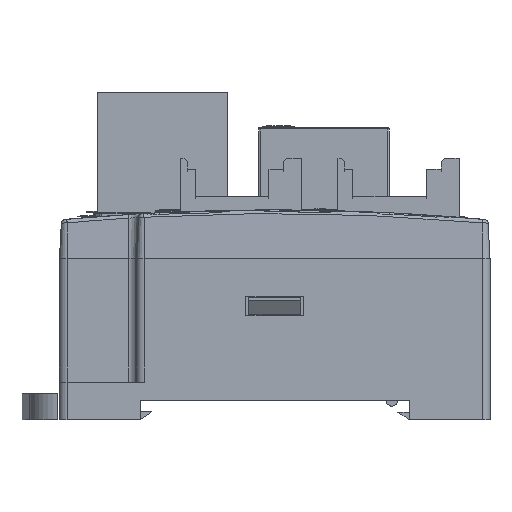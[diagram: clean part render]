
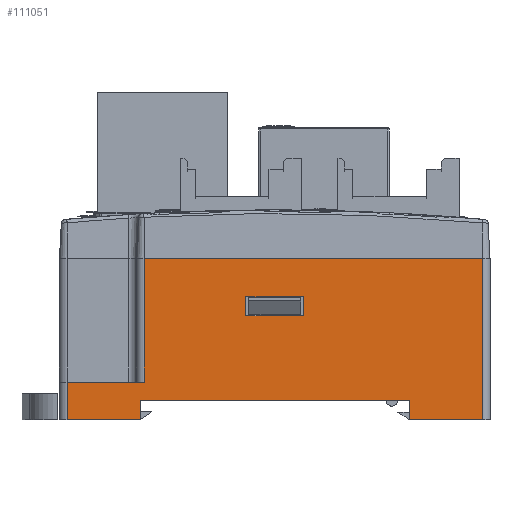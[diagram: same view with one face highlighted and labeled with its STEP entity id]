
A CAD part, front view. The second image highlights one B-rep face of the part: STEP entity #111051.
In plain terms, the highlighted planar face has unit normal (0, -1, 0).
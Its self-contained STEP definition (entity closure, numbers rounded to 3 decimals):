
#5382=DIRECTION('',(0.,0.,-1.));
#5383=VECTOR('',#5382,21.);
#5384=CARTESIAN_POINT('',(27.,-60.,0.));
#5385=LINE('',#5384,#5383);
#5442=DIRECTION('',(0.,0.,-1.));
#5443=VECTOR('',#5442,2.5);
#5444=CARTESIAN_POINT('',(17.5,-60.,-18.5));
#5445=LINE('',#5444,#5443);
#6035=DIRECTION('',(0.,0.,1.));
#6036=VECTOR('',#6035,16.1);
#6037=CARTESIAN_POINT('',(-17.,-60.,-16.1));
#6038=LINE('',#6037,#6036);
#6043=DIRECTION('',(1.,0.,0.));
#6044=VECTOR('',#6043,9.5);
#6045=CARTESIAN_POINT('',(17.5,-60.,-21.));
#6046=LINE('',#6045,#6044);
#6047=DIRECTION('',(1.,0.,0.));
#6048=VECTOR('',#6047,9.5);
#6049=CARTESIAN_POINT('',(-27.,-60.,-21.));
#6050=LINE('',#6049,#6048);
#6051=DIRECTION('',(0.,0.,1.));
#6052=VECTOR('',#6051,2.5);
#6053=CARTESIAN_POINT('',(-3.75,-60.,-7.5));
#6054=LINE('',#6053,#6052);
#6123=DIRECTION('',(1.,0.,0.));
#6124=VECTOR('',#6123,7.5);
#6125=CARTESIAN_POINT('',(-3.75,-60.,-5.));
#6126=LINE('',#6125,#6124);
#6314=DIRECTION('',(0.,0.,-1.));
#6315=VECTOR('',#6314,2.5);
#6316=CARTESIAN_POINT('',(3.75,-60.,-5.));
#6317=LINE('',#6316,#6315);
#6322=DIRECTION('',(-1.,0.,0.));
#6323=VECTOR('',#6322,7.5);
#6324=CARTESIAN_POINT('',(3.75,-60.,-7.5));
#6325=LINE('',#6324,#6323);
#6334=DIRECTION('',(-1.,0.,0.));
#6335=VECTOR('',#6334,35.);
#6336=CARTESIAN_POINT('',(17.5,-60.,-18.5));
#6337=LINE('',#6336,#6335);
#6342=DIRECTION('',(0.,0.,1.));
#6343=VECTOR('',#6342,2.5);
#6344=CARTESIAN_POINT('',(-17.5,-60.,-21.));
#6345=LINE('',#6344,#6343);
#42796=DIRECTION('',(1.,0.,0.));
#42797=VECTOR('',#42796,10.);
#42798=CARTESIAN_POINT('',(-27.,-60.,-16.1));
#42799=LINE('',#42798,#42797);
#42833=DIRECTION('',(0.,0.,1.));
#42834=VECTOR('',#42833,4.9);
#42835=CARTESIAN_POINT('',(-27.,-60.,-21.));
#42836=LINE('',#42835,#42834);
#42926=DIRECTION('',(1.,0.,0.));
#42927=VECTOR('',#42926,44.);
#42928=CARTESIAN_POINT('',(-17.,-60.,0.));
#42929=LINE('',#42928,#42927);
#85431=CARTESIAN_POINT('',(-17.5,-60.,-21.));
#85432=VERTEX_POINT('',#85431);
#85433=CARTESIAN_POINT('',(-27.,-60.,-21.));
#85434=VERTEX_POINT('',#85433);
#85461=CARTESIAN_POINT('',(27.,-60.,-21.));
#85462=VERTEX_POINT('',#85461);
#85463=CARTESIAN_POINT('',(17.5,-60.,-21.));
#85464=VERTEX_POINT('',#85463);
#85533=CARTESIAN_POINT('',(17.5,-60.,-18.5));
#85534=CARTESIAN_POINT('',(-17.5,-60.,-18.5));
#85535=VERTEX_POINT('',#85533);
#85536=VERTEX_POINT('',#85534);
#85537=CARTESIAN_POINT('',(-27.,-60.,-16.1));
#85538=VERTEX_POINT('',#85537);
#85539=CARTESIAN_POINT('',(-17.,-60.,-16.1));
#85540=VERTEX_POINT('',#85539);
#85541=CARTESIAN_POINT('',(-3.75,-60.,-7.5));
#85542=CARTESIAN_POINT('',(-3.75,-60.,-5.));
#85543=VERTEX_POINT('',#85541);
#85544=VERTEX_POINT('',#85542);
#85545=CARTESIAN_POINT('',(3.75,-60.,-7.5));
#85546=VERTEX_POINT('',#85545);
#85547=CARTESIAN_POINT('',(3.75,-60.,-5.));
#85548=VERTEX_POINT('',#85547);
#103610=CARTESIAN_POINT('',(-17.,-60.,0.));
#103611=CARTESIAN_POINT('',(27.,-60.,0.));
#103612=VERTEX_POINT('',#103610);
#103613=VERTEX_POINT('',#103611);
#111018=CARTESIAN_POINT('',(0.,-60.,-10.5));
#111019=DIRECTION('',(0.,1.,0.));
#111020=DIRECTION('',(1.,0.,0.));
#111021=AXIS2_PLACEMENT_3D('',#111018,#111019,#111020);
#111022=PLANE('',#111021);
#111023=ORIENTED_EDGE('',*,*,#109845,.T.);
#111024=ORIENTED_EDGE('',*,*,#109866,.F.);
#111025=ORIENTED_EDGE('',*,*,#109964,.F.);
#111027=ORIENTED_EDGE('',*,*,#111026,.T.);
#111029=ORIENTED_EDGE('',*,*,#111028,.F.);
#111031=ORIENTED_EDGE('',*,*,#111030,.F.);
#111033=ORIENTED_EDGE('',*,*,#111032,.T.);
#111035=ORIENTED_EDGE('',*,*,#111034,.T.);
#111036=ORIENTED_EDGE('',*,*,#111002,.T.);
#111038=ORIENTED_EDGE('',*,*,#111037,.T.);
#111039=EDGE_LOOP('',(#111023,#111024,#111025,#111027,#111029,#111031,#111033,
#111035,#111036,#111038));
#111040=FACE_OUTER_BOUND('',#111039,.F.);
#111042=ORIENTED_EDGE('',*,*,#111041,.F.);
#111044=ORIENTED_EDGE('',*,*,#111043,.F.);
#111046=ORIENTED_EDGE('',*,*,#111045,.F.);
#111048=ORIENTED_EDGE('',*,*,#111047,.F.);
#111049=EDGE_LOOP('',(#111042,#111044,#111046,#111048));
#111050=FACE_BOUND('',#111049,.F.);
#111051=ADVANCED_FACE('',(#111040,#111050),#111022,.F.);
#109845=EDGE_CURVE('',#103613,#85462,#5385,.T.);
#109866=EDGE_CURVE('',#85464,#85462,#6046,.T.);
#109964=EDGE_CURVE('',#85535,#85464,#5445,.T.);
#111002=EDGE_CURVE('',#85540,#103612,#6038,.T.);
#111026=EDGE_CURVE('',#85535,#85536,#6337,.T.);
#111028=EDGE_CURVE('',#85432,#85536,#6345,.T.);
#111030=EDGE_CURVE('',#85434,#85432,#6050,.T.);
#111032=EDGE_CURVE('',#85434,#85538,#42836,.T.);
#111034=EDGE_CURVE('',#85538,#85540,#42799,.T.);
#111037=EDGE_CURVE('',#103612,#103613,#42929,.T.);
#111041=EDGE_CURVE('',#85543,#85544,#6054,.T.);
#111043=EDGE_CURVE('',#85546,#85543,#6325,.T.);
#111045=EDGE_CURVE('',#85548,#85546,#6317,.T.);
#111047=EDGE_CURVE('',#85544,#85548,#6126,.T.);
